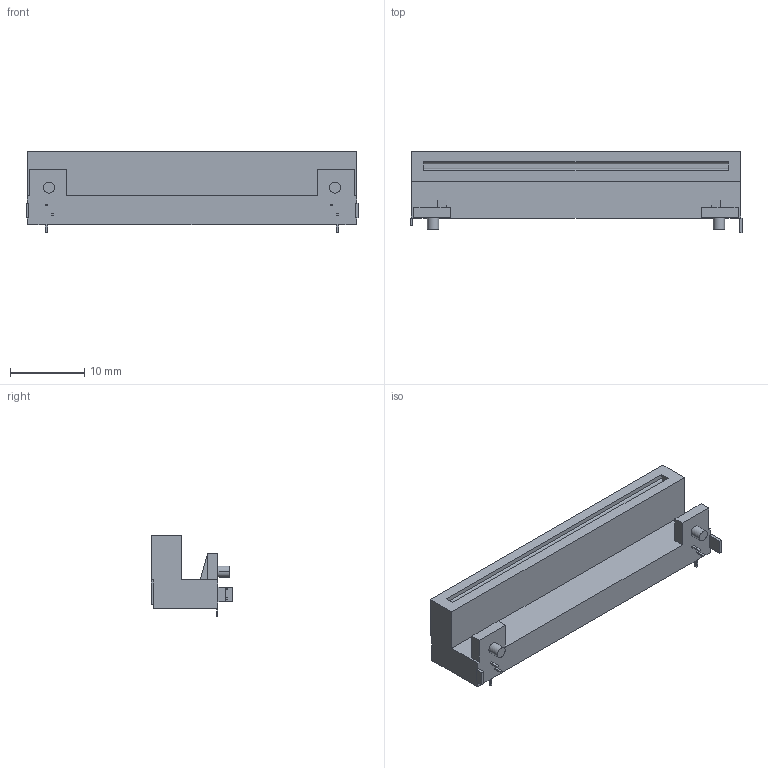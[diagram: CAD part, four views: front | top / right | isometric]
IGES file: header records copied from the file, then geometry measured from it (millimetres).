
Start section:  PTC IGES file: foxconn-fx3_prt.igs
Global section: file name: foxconn-fx3_prt.igs; native system: Pro/ENGINEER by Parametric Technology Corporation; preprocessor: 2000030; author: ECaille; organization: Unknown; date: 000803.091948; units: millimetre
Bounding box: 44.7 x 11 x 10.95 mm (x, y, z)
Surface area: 2352.8 mm2 (no closed solid volume)
Topology: 0 solids, 0 shells, 89 faces, 768 edges, 1068 vertices
Faces by surface type: bspline 83, revolution 6
